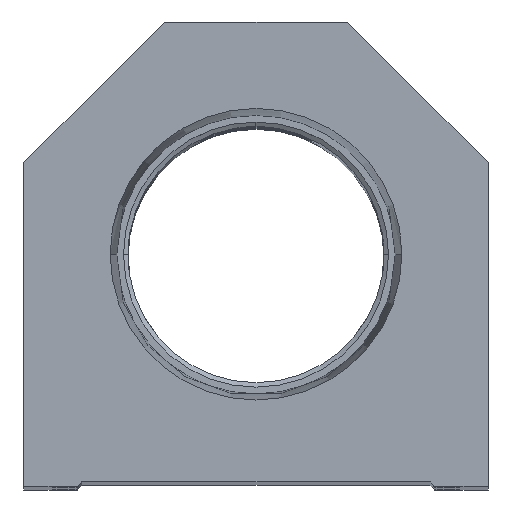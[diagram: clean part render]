
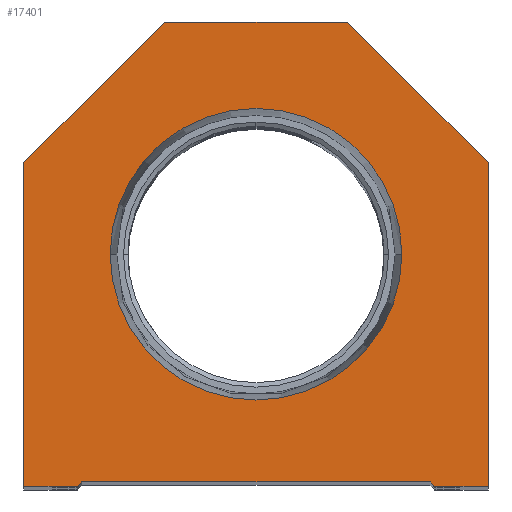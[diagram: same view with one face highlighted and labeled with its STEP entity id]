
A CAD part, top view. The second image highlights one B-rep face of the part: STEP entity #17401.
In plain terms, the highlighted planar face has unit normal (0, 0, 1).
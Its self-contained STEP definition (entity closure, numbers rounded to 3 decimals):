
#37 = CARTESIAN_POINT ( 'NONE',  ( 25.4, 0., 0. ) ) ;
#93 = ORIENTED_EDGE ( 'NONE', *, *, #1567, .T. ) ;
#187 = VERTEX_POINT ( 'NONE', #19257 ) ;
#228 = CARTESIAN_POINT ( 'NONE',  ( -19.05, 0.5, 0. ) ) ;
#261 = VERTEX_POINT ( 'NONE', #6120 ) ;
#832 = LINE ( 'NONE', #2333, #18609 ) ;
#875 = DIRECTION ( 'NONE',  ( 0., 0., 1. ) ) ;
#1189 = VERTEX_POINT ( 'NONE', #2760 ) ;
#1193 = CARTESIAN_POINT ( 'NONE',  ( -19.05, 0., 0. ) ) ;
#1567 = EDGE_CURVE ( 'NONE', #1991, #10956, #12736, .T. ) ;
#1573 = VERTEX_POINT ( 'NONE', #15417 ) ;
#1991 = VERTEX_POINT ( 'NONE', #18488 ) ;
#2285 = ORIENTED_EDGE ( 'NONE', *, *, #16050, .T. ) ;
#2333 = CARTESIAN_POINT ( 'NONE',  ( -25.4, 35.4, 0. ) ) ;
#2360 = VECTOR ( 'NONE', #19637, 1000. ) ;
#2392 = CARTESIAN_POINT ( 'NONE',  ( 0., 0., 0. ) ) ;
#2760 = CARTESIAN_POINT ( 'NONE',  ( -25.4, 35.4, 0. ) ) ;
#2912 = ORIENTED_EDGE ( 'NONE', *, *, #17467, .T. ) ;
#3121 = ORIENTED_EDGE ( 'NONE', *, *, #12557, .T. ) ;
#3225 = AXIS2_PLACEMENT_3D ( 'NONE', #2392, #9536, #8069 ) ;
#3353 = EDGE_CURVE ( 'NONE', #4675, #261, #13570, .T. ) ;
#3509 = AXIS2_PLACEMENT_3D ( 'NONE', #5079, #8088, #15598 ) ;
#3668 = CARTESIAN_POINT ( 'NONE',  ( -25.4, 0., 0. ) ) ;
#3980 = CARTESIAN_POINT ( 'NONE',  ( 0., 25.4, 0. ) ) ;
#4312 = ORIENTED_EDGE ( 'NONE', *, *, #7085, .T. ) ;
#4675 = VERTEX_POINT ( 'NONE', #37 ) ;
#4783 = VECTOR ( 'NONE', #19381, 1000. ) ;
#5059 = DIRECTION ( 'NONE',  ( 0., -1., 0. ) ) ;
#5079 = CARTESIAN_POINT ( 'NONE',  ( 0., 25.4, 0. ) ) ;
#5106 = EDGE_CURVE ( 'NONE', #13402, #4675, #15108, .T. ) ;
#5466 = DIRECTION ( 'NONE',  ( 1., 0., 0. ) ) ;
#5857 = EDGE_CURVE ( 'NONE', #1189, #187, #10276, .T. ) ;
#6067 = DIRECTION ( 'NONE',  ( 1., 0., 0. ) ) ;
#6120 = CARTESIAN_POINT ( 'NONE',  ( 25.4, 35.4, 0. ) ) ;
#6335 = DIRECTION ( 'NONE',  ( 1., 0., 0. ) ) ;
#6495 = DIRECTION ( 'NONE',  ( -1., 0., 0. ) ) ;
#6972 = PLANE ( 'NONE',  #3225 ) ;
#7085 = EDGE_CURVE ( 'NONE', #10956, #1189, #832, .T. ) ;
#7172 = DIRECTION ( 'NONE',  ( 0.707, -0.707, 0. ) ) ;
#7418 = CIRCLE ( 'NONE', #12477, 15.947 ) ;
#7522 = CARTESIAN_POINT ( 'NONE',  ( 15.947, 25.4, 0. ) ) ;
#7673 = VERTEX_POINT ( 'NONE', #15483 ) ;
#8003 = CARTESIAN_POINT ( 'NONE',  ( 19.55, 0., 0. ) ) ;
#8069 = DIRECTION ( 'NONE',  ( 1., 0., 0. ) ) ;
#8088 = DIRECTION ( 'NONE',  ( 0., 0., 1. ) ) ;
#8475 = EDGE_CURVE ( 'NONE', #8892, #15349, #7418, .T. ) ;
#8672 = VECTOR ( 'NONE', #7172, 1000. ) ;
#8892 = VERTEX_POINT ( 'NONE', #7522 ) ;
#9355 = EDGE_LOOP ( 'NONE', ( #15698, #9476 ) ) ;
#9476 = ORIENTED_EDGE ( 'NONE', *, *, #13756, .F. ) ;
#9536 = DIRECTION ( 'NONE',  ( 0., 0., 1. ) ) ;
#10276 = LINE ( 'NONE', #3668, #13197 ) ;
#10322 = DIRECTION ( 'NONE',  ( 0.707, 0.707, 0. ) ) ;
#10878 = CARTESIAN_POINT ( 'NONE',  ( 25.4, 0., 0. ) ) ;
#10956 = VERTEX_POINT ( 'NONE', #18595 ) ;
#12471 = CARTESIAN_POINT ( 'NONE',  ( -19.05, 0.5, 0. ) ) ;
#12477 = AXIS2_PLACEMENT_3D ( 'NONE', #3980, #875, #5466 ) ;
#12557 = EDGE_CURVE ( 'NONE', #261, #1991, #17558, .T. ) ;
#12601 = EDGE_LOOP ( 'NONE', ( #15722, #15313, #2285, #2912, #14306, #18027, #3121, #93, #4312, #15800 ) ) ;
#12736 = LINE ( 'NONE', #14230, #18823 ) ;
#13197 = VECTOR ( 'NONE', #5059, 1000. ) ;
#13402 = VERTEX_POINT ( 'NONE', #8003 ) ;
#13570 = LINE ( 'NONE', #10878, #2360 ) ;
#13756 = EDGE_CURVE ( 'NONE', #15349, #8892, #16524, .T. ) ;
#13778 = LINE ( 'NONE', #228, #16266 ) ;
#14230 = CARTESIAN_POINT ( 'NONE',  ( 10., 50.8, 0. ) ) ;
#14306 = ORIENTED_EDGE ( 'NONE', *, *, #5106, .T. ) ;
#14357 = CARTESIAN_POINT ( 'NONE',  ( 25.4, 35.4, 0. ) ) ;
#14542 = EDGE_CURVE ( 'NONE', #7673, #18508, #16306, .T. ) ;
#14574 = EDGE_CURVE ( 'NONE', #187, #7673, #14811, .T. ) ;
#14811 = LINE ( 'NONE', #1193, #4783 ) ;
#15108 = LINE ( 'NONE', #19684, #16019 ) ;
#15313 = ORIENTED_EDGE ( 'NONE', *, *, #14542, .T. ) ;
#15349 = VERTEX_POINT ( 'NONE', #19233 ) ;
#15417 = CARTESIAN_POINT ( 'NONE',  ( 19.05, 0.5, 0. ) ) ;
#15483 = CARTESIAN_POINT ( 'NONE',  ( -19.55, 0., 0. ) ) ;
#15598 = DIRECTION ( 'NONE',  ( 1., 0., 0. ) ) ;
#15693 = FACE_BOUND ( 'NONE', #9355, .T. ) ;
#15698 = ORIENTED_EDGE ( 'NONE', *, *, #8475, .F. ) ;
#15722 = ORIENTED_EDGE ( 'NONE', *, *, #14574, .T. ) ;
#15736 = DIRECTION ( 'NONE',  ( -0.707, -0.707, 0. ) ) ;
#15800 = ORIENTED_EDGE ( 'NONE', *, *, #5857, .T. ) ;
#15849 = DIRECTION ( 'NONE',  ( -0.707, 0.707, 0. ) ) ;
#16019 = VECTOR ( 'NONE', #6067, 1000. ) ;
#16050 = EDGE_CURVE ( 'NONE', #18508, #1573, #13778, .T. ) ;
#16234 = VECTOR ( 'NONE', #10322, 1000. ) ;
#16266 = VECTOR ( 'NONE', #6335, 1000. ) ;
#16306 = LINE ( 'NONE', #19296, #16234 ) ;
#16474 = LINE ( 'NONE', #19177, #8672 ) ;
#16524 = CIRCLE ( 'NONE', #3509, 15.947 ) ;
#17106 = FACE_OUTER_BOUND ( 'NONE', #12601, .T. ) ;
#17401 = ADVANCED_FACE ( 'NONE', ( #15693, #17106 ), #6972, .T. ) ;
#17467 = EDGE_CURVE ( 'NONE', #1573, #13402, #16474, .T. ) ;
#17558 = LINE ( 'NONE', #14357, #19383 ) ;
#18027 = ORIENTED_EDGE ( 'NONE', *, *, #3353, .T. ) ;
#18488 = CARTESIAN_POINT ( 'NONE',  ( 10., 50.8, 0. ) ) ;
#18508 = VERTEX_POINT ( 'NONE', #12471 ) ;
#18595 = CARTESIAN_POINT ( 'NONE',  ( -10., 50.8, 0. ) ) ;
#18609 = VECTOR ( 'NONE', #15736, 1000. ) ;
#18823 = VECTOR ( 'NONE', #6495, 1000. ) ;
#19177 = CARTESIAN_POINT ( 'NONE',  ( 9.775, 9.775, 0. ) ) ;
#19233 = CARTESIAN_POINT ( 'NONE',  ( -15.947, 25.4, 0. ) ) ;
#19257 = CARTESIAN_POINT ( 'NONE',  ( -25.4, 0., 0. ) ) ;
#19296 = CARTESIAN_POINT ( 'NONE',  ( -9.775, 9.775, 0. ) ) ;
#19381 = DIRECTION ( 'NONE',  ( 1., 0., 0. ) ) ;
#19383 = VECTOR ( 'NONE', #15849, 1000. ) ;
#19637 = DIRECTION ( 'NONE',  ( 0., 1., 0. ) ) ;
#19684 = CARTESIAN_POINT ( 'NONE',  ( 19.05, 0., 0. ) ) ;
